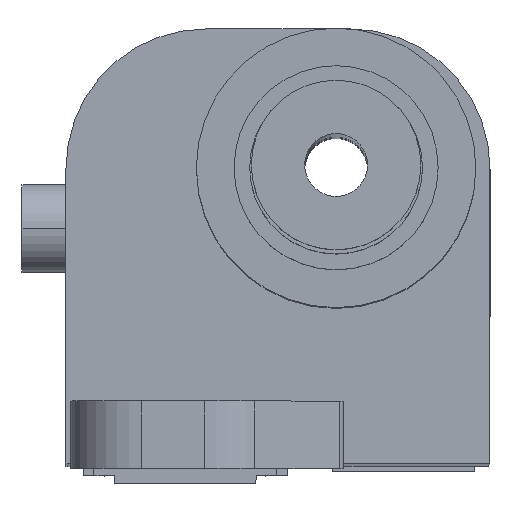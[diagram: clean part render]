
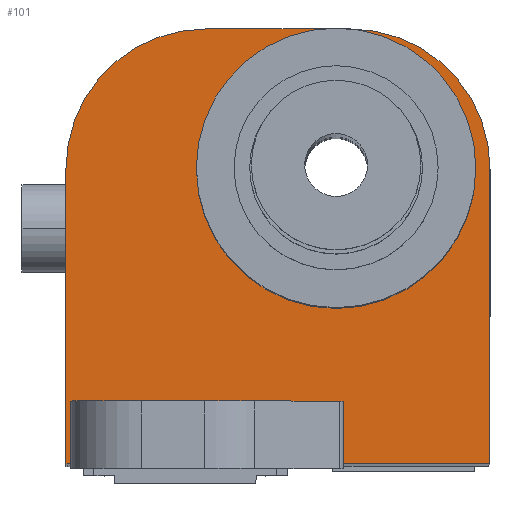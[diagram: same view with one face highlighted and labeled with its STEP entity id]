
A CAD part, top view. The second image highlights one B-rep face of the part: STEP entity #101.
In plain terms, the highlighted planar face has unit normal (0, 0, 1).
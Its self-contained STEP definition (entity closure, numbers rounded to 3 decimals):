
#29 = EDGE_CURVE ( 'NONE', #1315, #347, #1890, .T. ) ;
#51 = ORIENTED_EDGE ( 'NONE', *, *, #29, .T. ) ;
#65 = ORIENTED_EDGE ( 'NONE', *, *, #1314, .T. ) ;
#67 = EDGE_CURVE ( 'NONE', #1017, #381, #1913, .T. ) ;
#68 = ORIENTED_EDGE ( 'NONE', *, *, #1016, .F. ) ;
#70 = ORIENTED_EDGE ( 'NONE', *, *, #383, .T. ) ;
#71 = ORIENTED_EDGE ( 'NONE', *, *, #67, .F. ) ;
#73 = ORIENTED_EDGE ( 'NONE', *, *, #285, .T. ) ;
#74 = EDGE_CURVE ( 'NONE', #323, #286, #1906, .T. ) ;
#93 = ORIENTED_EDGE ( 'NONE', *, *, #74, .T. ) ;
#95 = ORIENTED_EDGE ( 'NONE', *, *, #321, .T. ) ;
#96 = ORIENTED_EDGE ( 'NONE', *, *, #100, .T. ) ;
#97 = EDGE_CURVE ( 'NONE', #1309, #1308, #1950, .T. ) ;
#98 = EDGE_LOOP ( 'NONE', ( #99, #103 ) ) ;
#99 = ORIENTED_EDGE ( 'NONE', *, *, #97, .F. ) ;
#100 = EDGE_CURVE ( 'NONE', #362, #322, #1945, .T. ) ;
#101 = ADVANCED_FACE ( 'NONE', ( #1940, #1939 ), #1938, .F. ) ;
#103 = ORIENTED_EDGE ( 'NONE', *, *, #1239, .F. ) ;
#104 = EDGE_LOOP ( 'NONE', ( #105, #96, #95, #93, #73, #70, #71, #68, #65, #51 ) ) ;
#105 = ORIENTED_EDGE ( 'NONE', *, *, #171, .T. ) ;
#171 = EDGE_CURVE ( 'NONE', #347, #362, #2051, .T. ) ;
#182 = VERTEX_POINT ( 'NONE', #2088 ) ;
#285 = EDGE_CURVE ( 'NONE', #286, #182, #2231, .T. ) ;
#286 = VERTEX_POINT ( 'NONE', #2227 ) ;
#321 = EDGE_CURVE ( 'NONE', #322, #323, #2290, .T. ) ;
#322 = VERTEX_POINT ( 'NONE', #2351 ) ;
#323 = VERTEX_POINT ( 'NONE', #2350 ) ;
#347 = VERTEX_POINT ( 'NONE', #2364 ) ;
#362 = VERTEX_POINT ( 'NONE', #2412 ) ;
#381 = VERTEX_POINT ( 'NONE', #2445 ) ;
#383 = EDGE_CURVE ( 'NONE', #182, #381, #2444, .T. ) ;
#1014 = VERTEX_POINT ( 'NONE', #3400 ) ;
#1016 = EDGE_CURVE ( 'NONE', #1014, #1017, #3462, .T. ) ;
#1017 = VERTEX_POINT ( 'NONE', #3458 ) ;
#1239 = EDGE_CURVE ( 'NONE', #1308, #1309, #3842, .T. ) ;
#1308 = VERTEX_POINT ( 'NONE', #3975 ) ;
#1309 = VERTEX_POINT ( 'NONE', #3974 ) ;
#1314 = EDGE_CURVE ( 'NONE', #1014, #1315, #3972, .T. ) ;
#1315 = VERTEX_POINT ( 'NONE', #3968 ) ;
#1887 = DIRECTION ( 'NONE',  ( 1., 0., 0. ) ) ;
#1888 = VECTOR ( 'NONE', #1887, 1000. ) ;
#1889 = CARTESIAN_POINT ( 'NONE',  ( -17.2, 0., 0. ) ) ;
#1890 = LINE ( 'NONE', #1889, #1888 ) ;
#1902 = DIRECTION ( 'NONE',  ( -1., 0., 0. ) ) ;
#1903 = DIRECTION ( 'NONE',  ( 0., 0., 1. ) ) ;
#1904 = CARTESIAN_POINT ( 'NONE',  ( -8.3, 18.8, 0. ) ) ;
#1905 = AXIS2_PLACEMENT_3D ( 'NONE', #1904, #1903, #1902 ) ;
#1906 = CIRCLE ( 'NONE', #1905, 8.9 ) ;
#1907 = DIRECTION ( 'NONE',  ( 0., -1., 0. ) ) ;
#1908 = VECTOR ( 'NONE', #1907, 1000. ) ;
#1909 = CARTESIAN_POINT ( 'NONE',  ( -16.9, 4., 0. ) ) ;
#1913 = LINE ( 'NONE', #1909, #1908 ) ;
#1934 = DIRECTION ( 'NONE',  ( -1., 0., 0. ) ) ;
#1935 = DIRECTION ( 'NONE',  ( 0., 0., -1. ) ) ;
#1936 = CARTESIAN_POINT ( 'NONE',  ( -17.2, 0., 0. ) ) ;
#1937 = AXIS2_PLACEMENT_3D ( 'NONE', #1936, #1935, #1934 ) ;
#1938 = PLANE ( 'NONE',  #1937 ) ;
#1939 = FACE_OUTER_BOUND ( 'NONE', #104, .T. ) ;
#1940 = FACE_BOUND ( 'NONE', #98, .T. ) ;
#1941 = DIRECTION ( 'NONE',  ( -1., 0., 0. ) ) ;
#1942 = DIRECTION ( 'NONE',  ( 0., 0., 1. ) ) ;
#1943 = CARTESIAN_POINT ( 'NONE',  ( 0.9, 18.8, 0. ) ) ;
#1944 = AXIS2_PLACEMENT_3D ( 'NONE', #1943, #1942, #1941 ) ;
#1945 = CIRCLE ( 'NONE', #1944, 8.9 ) ;
#1946 = DIRECTION ( 'NONE',  ( 1., 0., 0. ) ) ;
#1947 = DIRECTION ( 'NONE',  ( 0., 0., 1. ) ) ;
#1948 = CARTESIAN_POINT ( 'NONE',  ( 0., 18.8, 0. ) ) ;
#1949 = AXIS2_PLACEMENT_3D ( 'NONE', #1948, #1947, #1946 ) ;
#1950 = CIRCLE ( 'NONE', #1949, 7. ) ;
#2048 = DIRECTION ( 'NONE',  ( 0., 1., 0. ) ) ;
#2049 = VECTOR ( 'NONE', #2048, 1000. ) ;
#2050 = CARTESIAN_POINT ( 'NONE',  ( 9.8, 0., 0. ) ) ;
#2051 = LINE ( 'NONE', #2050, #2049 ) ;
#2088 = CARTESIAN_POINT ( 'NONE',  ( -17.2, 0., 0. ) ) ;
#2227 = CARTESIAN_POINT ( 'NONE',  ( -17.2, 18.8, 0. ) ) ;
#2228 = DIRECTION ( 'NONE',  ( 0., -1., 0. ) ) ;
#2229 = VECTOR ( 'NONE', #2228, 1000. ) ;
#2230 = CARTESIAN_POINT ( 'NONE',  ( -17.2, 0., 0. ) ) ;
#2231 = LINE ( 'NONE', #2230, #2229 ) ;
#2289 = CARTESIAN_POINT ( 'NONE',  ( -17.2, 27.7, 0. ) ) ;
#2290 = LINE ( 'NONE', #2289, #2353 ) ;
#2350 = CARTESIAN_POINT ( 'NONE',  ( -8.3, 27.7, 0. ) ) ;
#2351 = CARTESIAN_POINT ( 'NONE',  ( 0.9, 27.7, 0. ) ) ;
#2352 = DIRECTION ( 'NONE',  ( -1., 0., 0. ) ) ;
#2353 = VECTOR ( 'NONE', #2352, 1000. ) ;
#2364 = CARTESIAN_POINT ( 'NONE',  ( 9.8, 0., 0. ) ) ;
#2412 = CARTESIAN_POINT ( 'NONE',  ( 9.8, 18.8, 0. ) ) ;
#2441 = DIRECTION ( 'NONE',  ( 1., 0., 0. ) ) ;
#2442 = VECTOR ( 'NONE', #2441, 1000. ) ;
#2443 = CARTESIAN_POINT ( 'NONE',  ( -17.2, 0., 0. ) ) ;
#2444 = LINE ( 'NONE', #2443, #2442 ) ;
#2445 = CARTESIAN_POINT ( 'NONE',  ( -16.9, 0., 0. ) ) ;
#3400 = CARTESIAN_POINT ( 'NONE',  ( 0.5, 4., 0. ) ) ;
#3458 = CARTESIAN_POINT ( 'NONE',  ( -16.9, 4., 0. ) ) ;
#3459 = DIRECTION ( 'NONE',  ( -1., 0., 0. ) ) ;
#3460 = VECTOR ( 'NONE', #3459, 1000. ) ;
#3461 = CARTESIAN_POINT ( 'NONE',  ( -16.9, 4., 0. ) ) ;
#3462 = LINE ( 'NONE', #3461, #3460 ) ;
#3834 = DIRECTION ( 'NONE',  ( 1., 0., 0. ) ) ;
#3835 = DIRECTION ( 'NONE',  ( 0., 0., 1. ) ) ;
#3836 = CARTESIAN_POINT ( 'NONE',  ( 0., 18.8, 0. ) ) ;
#3837 = AXIS2_PLACEMENT_3D ( 'NONE', #3836, #3835, #3834 ) ;
#3842 = CIRCLE ( 'NONE', #3837, 7. ) ;
#3968 = CARTESIAN_POINT ( 'NONE',  ( 0.5, 0., 0. ) ) ;
#3969 = DIRECTION ( 'NONE',  ( 0., -1., 0. ) ) ;
#3970 = VECTOR ( 'NONE', #3969, 1000. ) ;
#3971 = CARTESIAN_POINT ( 'NONE',  ( 0.5, 4., 0. ) ) ;
#3972 = LINE ( 'NONE', #3971, #3970 ) ;
#3974 = CARTESIAN_POINT ( 'NONE',  ( 7., 18.8, 0. ) ) ;
#3975 = CARTESIAN_POINT ( 'NONE',  ( -7., 18.8, 0. ) ) ;
